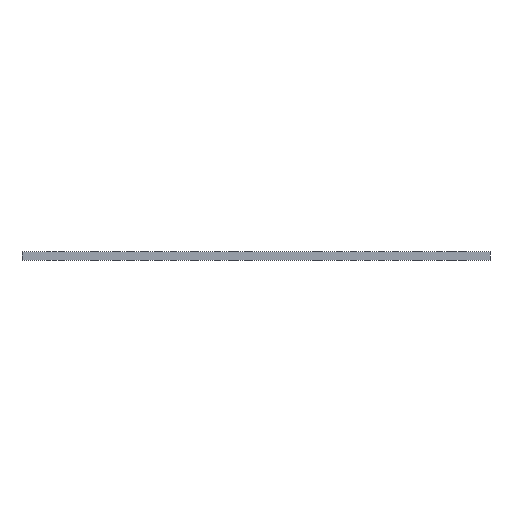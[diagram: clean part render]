
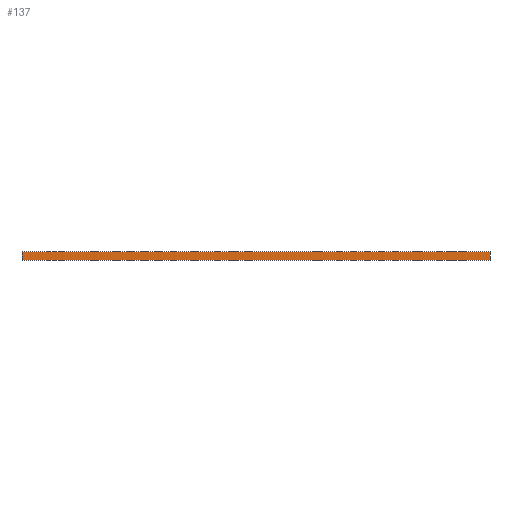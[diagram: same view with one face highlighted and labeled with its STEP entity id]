
A CAD part, front view. The second image highlights one B-rep face of the part: STEP entity #137.
In plain terms, the highlighted planar face has unit normal (0, -1, 0).
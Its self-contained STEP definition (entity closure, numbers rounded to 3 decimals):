
#21 = EDGE_CURVE('',#22,#24,#26,.T.);
#22 = VERTEX_POINT('',#23);
#23 = CARTESIAN_POINT('',(0.,0.,0.));
#24 = VERTEX_POINT('',#25);
#25 = CARTESIAN_POINT('',(0.,0.,1.6));
#26 = SURFACE_CURVE('',#27,(#31,#43),.PCURVE_S1.);
#27 = LINE('',#28,#29);
#28 = CARTESIAN_POINT('',(0.,0.,0.));
#29 = VECTOR('',#30,1.);
#30 = DIRECTION('',(0.,0.,1.));
#31 = PCURVE('',#32,#37);
#32 = PLANE('',#33);
#33 = AXIS2_PLACEMENT_3D('',#34,#35,#36);
#34 = CARTESIAN_POINT('',(0.,0.,0.));
#35 = DIRECTION('',(1.,0.,0.));
#36 = DIRECTION('',(0.,0.,1.));
#37 = DEFINITIONAL_REPRESENTATION('',(#38),#42);
#38 = LINE('',#39,#40);
#39 = CARTESIAN_POINT('',(0.,0.));
#40 = VECTOR('',#41,1.);
#41 = DIRECTION('',(1.,0.));
#42 = ( GEOMETRIC_REPRESENTATION_CONTEXT(2) 
PARAMETRIC_REPRESENTATION_CONTEXT() REPRESENTATION_CONTEXT('2D SPACE',''
  ) );
#43 = PCURVE('',#44,#49);
#44 = PLANE('',#45);
#45 = AXIS2_PLACEMENT_3D('',#46,#47,#48);
#46 = CARTESIAN_POINT('',(0.,0.,0.));
#47 = DIRECTION('',(0.,1.,0.));
#48 = DIRECTION('',(0.,0.,1.));
#49 = DEFINITIONAL_REPRESENTATION('',(#50),#54);
#50 = LINE('',#51,#52);
#51 = CARTESIAN_POINT('',(0.,0.));
#52 = VECTOR('',#53,1.);
#53 = DIRECTION('',(1.,0.));
#54 = ( GEOMETRIC_REPRESENTATION_CONTEXT(2) 
PARAMETRIC_REPRESENTATION_CONTEXT() REPRESENTATION_CONTEXT('2D SPACE',''
  ) );
#72 = PLANE('',#73);
#73 = AXIS2_PLACEMENT_3D('',#74,#75,#76);
#74 = CARTESIAN_POINT('',(0.,0.,0.));
#75 = DIRECTION('',(0.,0.,1.));
#76 = DIRECTION('',(1.,0.,0.));
#126 = PLANE('',#127);
#127 = AXIS2_PLACEMENT_3D('',#128,#129,#130);
#128 = CARTESIAN_POINT('',(0.,0.,1.6));
#129 = DIRECTION('',(0.,0.,1.));
#130 = DIRECTION('',(1.,0.,0.));
#137 = ADVANCED_FACE('',(#138),#44,.F.);
#138 = FACE_BOUND('',#139,.F.);
#139 = EDGE_LOOP('',(#140,#163,#164,#187));
#140 = ORIENTED_EDGE('',*,*,#141,.F.);
#141 = EDGE_CURVE('',#22,#142,#144,.T.);
#142 = VERTEX_POINT('',#143);
#143 = CARTESIAN_POINT('',(84.,0.,0.));
#144 = SURFACE_CURVE('',#145,(#149,#156),.PCURVE_S1.);
#145 = LINE('',#146,#147);
#146 = CARTESIAN_POINT('',(0.,0.,0.));
#147 = VECTOR('',#148,1.);
#148 = DIRECTION('',(1.,0.,0.));
#149 = PCURVE('',#44,#150);
#150 = DEFINITIONAL_REPRESENTATION('',(#151),#155);
#151 = LINE('',#152,#153);
#152 = CARTESIAN_POINT('',(0.,0.));
#153 = VECTOR('',#154,1.);
#154 = DIRECTION('',(0.,1.));
#155 = ( GEOMETRIC_REPRESENTATION_CONTEXT(2) 
PARAMETRIC_REPRESENTATION_CONTEXT() REPRESENTATION_CONTEXT('2D SPACE',''
  ) );
#156 = PCURVE('',#72,#157);
#157 = DEFINITIONAL_REPRESENTATION('',(#158),#162);
#158 = LINE('',#159,#160);
#159 = CARTESIAN_POINT('',(0.,0.));
#160 = VECTOR('',#161,1.);
#161 = DIRECTION('',(1.,0.));
#162 = ( GEOMETRIC_REPRESENTATION_CONTEXT(2) 
PARAMETRIC_REPRESENTATION_CONTEXT() REPRESENTATION_CONTEXT('2D SPACE',''
  ) );
#163 = ORIENTED_EDGE('',*,*,#21,.T.);
#164 = ORIENTED_EDGE('',*,*,#165,.T.);
#165 = EDGE_CURVE('',#24,#166,#168,.T.);
#166 = VERTEX_POINT('',#167);
#167 = CARTESIAN_POINT('',(84.,0.,1.6));
#168 = SURFACE_CURVE('',#169,(#173,#180),.PCURVE_S1.);
#169 = LINE('',#170,#171);
#170 = CARTESIAN_POINT('',(0.,0.,1.6));
#171 = VECTOR('',#172,1.);
#172 = DIRECTION('',(1.,0.,0.));
#173 = PCURVE('',#44,#174);
#174 = DEFINITIONAL_REPRESENTATION('',(#175),#179);
#175 = LINE('',#176,#177);
#176 = CARTESIAN_POINT('',(1.6,0.));
#177 = VECTOR('',#178,1.);
#178 = DIRECTION('',(0.,1.));
#179 = ( GEOMETRIC_REPRESENTATION_CONTEXT(2) 
PARAMETRIC_REPRESENTATION_CONTEXT() REPRESENTATION_CONTEXT('2D SPACE',''
  ) );
#180 = PCURVE('',#126,#181);
#181 = DEFINITIONAL_REPRESENTATION('',(#182),#186);
#182 = LINE('',#183,#184);
#183 = CARTESIAN_POINT('',(0.,0.));
#184 = VECTOR('',#185,1.);
#185 = DIRECTION('',(1.,0.));
#186 = ( GEOMETRIC_REPRESENTATION_CONTEXT(2) 
PARAMETRIC_REPRESENTATION_CONTEXT() REPRESENTATION_CONTEXT('2D SPACE',''
  ) );
#187 = ORIENTED_EDGE('',*,*,#188,.F.);
#188 = EDGE_CURVE('',#142,#166,#189,.T.);
#189 = SURFACE_CURVE('',#190,(#194,#201),.PCURVE_S1.);
#190 = LINE('',#191,#192);
#191 = CARTESIAN_POINT('',(84.,0.,0.));
#192 = VECTOR('',#193,1.);
#193 = DIRECTION('',(0.,0.,1.));
#194 = PCURVE('',#44,#195);
#195 = DEFINITIONAL_REPRESENTATION('',(#196),#200);
#196 = LINE('',#197,#198);
#197 = CARTESIAN_POINT('',(0.,84.));
#198 = VECTOR('',#199,1.);
#199 = DIRECTION('',(1.,0.));
#200 = ( GEOMETRIC_REPRESENTATION_CONTEXT(2) 
PARAMETRIC_REPRESENTATION_CONTEXT() REPRESENTATION_CONTEXT('2D SPACE',''
  ) );
#201 = PCURVE('',#202,#207);
#202 = PLANE('',#203);
#203 = AXIS2_PLACEMENT_3D('',#204,#205,#206);
#204 = CARTESIAN_POINT('',(84.,0.,0.));
#205 = DIRECTION('',(1.,0.,0.));
#206 = DIRECTION('',(0.,0.,1.));
#207 = DEFINITIONAL_REPRESENTATION('',(#208),#212);
#208 = LINE('',#209,#210);
#209 = CARTESIAN_POINT('',(0.,0.));
#210 = VECTOR('',#211,1.);
#211 = DIRECTION('',(1.,0.));
#212 = ( GEOMETRIC_REPRESENTATION_CONTEXT(2) 
PARAMETRIC_REPRESENTATION_CONTEXT() REPRESENTATION_CONTEXT('2D SPACE',''
  ) );
